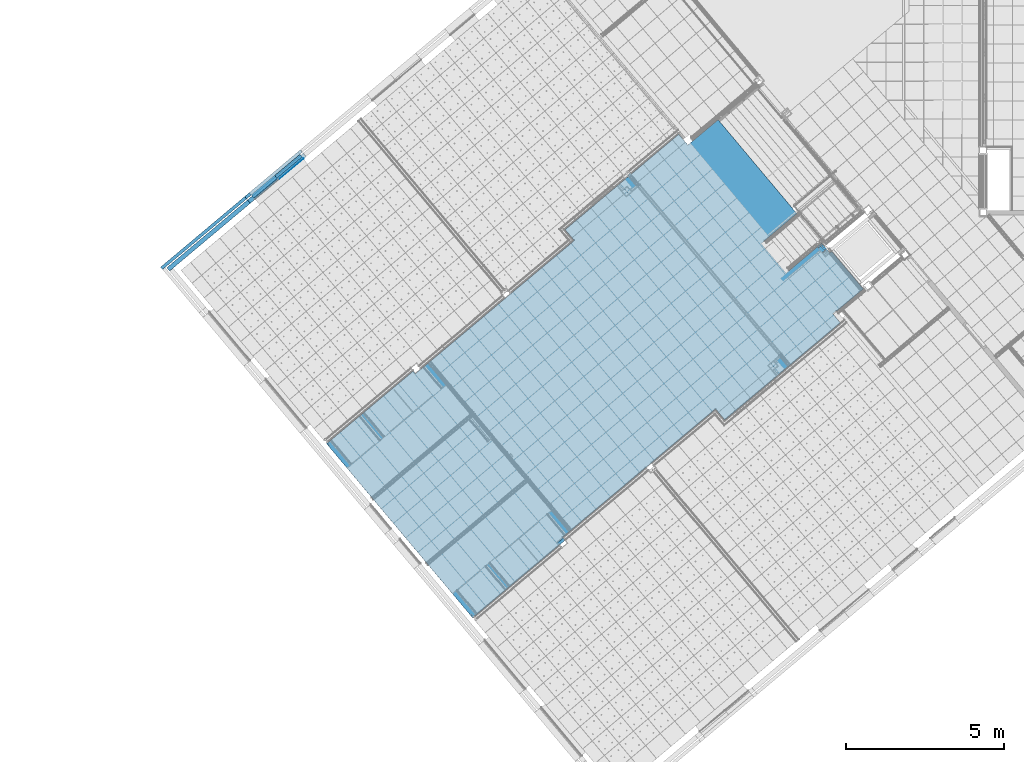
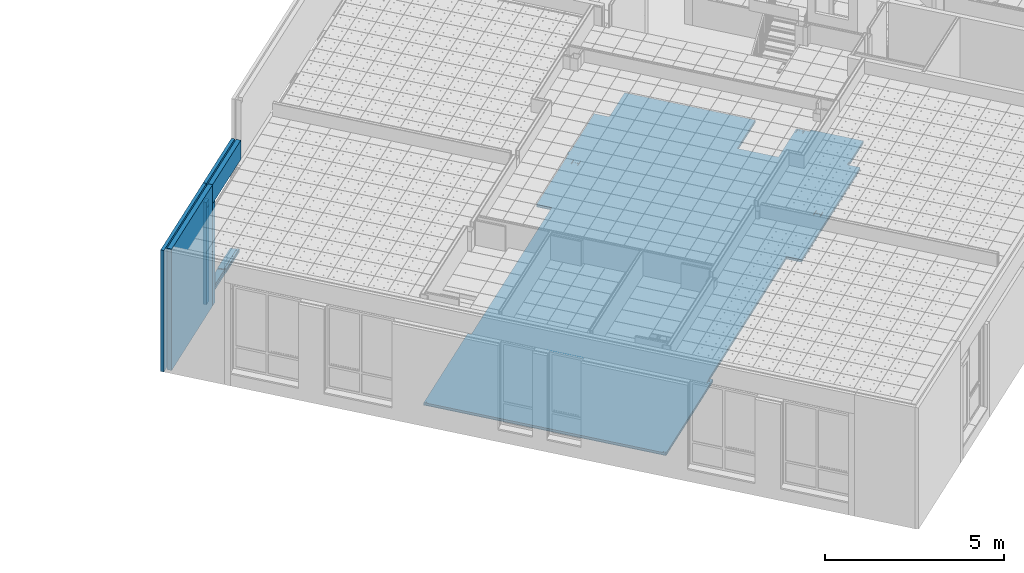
# One storey, part 59 of 338: 12 building element parts, 6 elements without a shape of their own.
"""IFC2X3 building model written with IfcOpenShell, lengths in millimetres."""

import ifcopenshell
import ifcopenshell.guid

model = None  # the IFC model being written
_history = None  # IfcOwnerHistory: only IFC2X3 demands one
_inside = {}  # id of a spatial element -> (the spatial element, [elements in it])
_under = {}  # id of a project, library or spatial element -> (it, [spatial elements below it])
_declared = {}  # id of a project -> (the project, [libraries it declares])
_typed = {}  # id of a type object -> (the type object, [elements of that type])
_made_of = {}  # id of a material, layer set ... -> (it, [elements and type objects made of it])


def new_model(schema):
    """Start an empty IFC model of exactly this schema.

    Asked for "IFC4X3", IfcOpenShell would pick the latest addendum, in which some entities
    have other attributes; the version numbers below select the first issue.
    IFC2X3 requires an IfcOwnerHistory on every rooted entity: one is made here for all.
    """
    global model, _history
    if schema == "IFC4X3":
        model = ifcopenshell.file(schema_version=(4, 3, 0, 0))
    else:
        model = ifcopenshell.file(schema=schema)
    _inside.clear()
    _under.clear()
    _declared.clear()
    _typed.clear()
    _made_of.clear()
    _history = None
    if model.schema == "IFC2X3":
        org = make("IfcOrganization", Name="unknown")
        user = make(
            "IfcPersonAndOrganization",
            ThePerson=make("IfcPerson", FamilyName="unknown"),
            TheOrganization=org,
        )
        app = make(
            "IfcApplication",
            ApplicationDeveloper=org,
            Version="unknown",
            ApplicationFullName="unknown",
            ApplicationIdentifier="unknown",
        )
        _history = make(
            "IfcOwnerHistory",
            OwningUser=user,
            OwningApplication=app,
            ChangeAction="ADDED",
            CreationDate=0,
        )
    return model


def make(cls, **values):
    """One entity of the class cls with the attributes given. An attribute that is None is left unset."""
    return model.create_entity(
        cls, **{name: value for name, value in values.items() if value is not None}
    )


def entity(cls, *values):
    """Any entity or typed value of the class cls, its attributes in the order of the schema. None: left unset."""
    e = model.create_entity(cls)
    for i, value in enumerate(values):
        if value is not None:
            e[i] = value
    return e


def rooted(cls, **values):
    """An entity with a GlobalId (a new one), such as an element, a storey or a relation."""
    return make(cls, GlobalId=ifcopenshell.guid.new(), OwnerHistory=_history, **values)


def si_unit(unit_type, name, prefix=None):
    """IfcSIUnit, for example si_unit("LENGTHUNIT", "METRE", prefix="MILLI")."""
    return make("IfcSIUnit", UnitType=unit_type, Prefix=prefix, Name=name)


def converted_unit(unit_type, name, factor, base, dimensions=None, offset=None):
    """IfcConversionBasedUnit, such as the inch: factor (a typed value) times the base unit."""
    return make(
        "IfcConversionBasedUnit"
        if offset is None
        else "IfcConversionBasedUnitWithOffset",
        ConversionOffset=offset,
        Dimensions=None
        if dimensions is None
        else entity("IfcDimensionalExponents", *dimensions),
        UnitType=unit_type,
        Name=name,
        ConversionFactor=make(
            "IfcMeasureWithUnit", ValueComponent=factor, UnitComponent=base
        ),
    )


def derived_unit(unit_type, elements):
    """IfcDerivedUnit: a product of units, each with its exponent."""
    return make(
        "IfcDerivedUnit",
        Elements=[
            make("IfcDerivedUnitElement", Unit=unit, Exponent=power)
            for unit, power in elements
        ],
        UnitType=unit_type,
    )


def money_unit(currency):
    """IfcMonetaryUnit."""
    return make("IfcMonetaryUnit", Currency=currency)


def assignment(units):
    """IfcUnitAssignment: the units of a project."""
    return None if units is None else make("IfcUnitAssignment", Units=units)


def point(xyz):
    """IfcCartesianPoint."""
    return None if xyz is None else make("IfcCartesianPoint", Coordinates=xyz)


def direction(xyz):
    """IfcDirection."""
    return None if xyz is None else make("IfcDirection", DirectionRatios=xyz)


def frame(location, z_axis=None, x_axis=None):
    """IfcAxis2Placement3D, a coordinate frame: its origin and axes. An axis left out is left unset."""
    return make(
        "IfcAxis2Placement3D",
        Location=point(location),
        Axis=direction(z_axis),
        RefDirection=direction(x_axis),
    )


def origin_with_axes():
    """The frame at (0, 0, 0) with the z axis (0, 0, 1) and the x axis (1, 0, 0) written out."""
    return frame((0.0, 0.0, 0.0), z_axis=(0.0, 0.0, 1.0), x_axis=(1.0, 0.0, 0.0))


def place(relative_to, where):
    """IfcLocalPlacement: puts the frame where relative to a parent placement (None: the world)."""
    return make(
        "IfcLocalPlacement", PlacementRelTo=relative_to, RelativePlacement=where
    )


def context(
    kind, dimensions, precision=None, world=None, true_north=None, identifier=None
):
    """IfcGeometricRepresentationContext, for example the 3D "Model" context."""
    return make(
        "IfcGeometricRepresentationContext",
        ContextIdentifier=identifier,
        ContextType=kind,
        CoordinateSpaceDimension=dimensions,
        Precision=precision,
        WorldCoordinateSystem=world,
        TrueNorth=true_north,
    )


def subcontext(parent, identifier, kind, view, scale=None):
    """IfcGeometricRepresentationSubContext, for example "Body" below "Model"."""
    return make(
        "IfcGeometricRepresentationSubContext",
        ContextIdentifier=identifier,
        ContextType=kind,
        ParentContext=parent,
        TargetScale=scale,
        TargetView=view,
    )


def project(units=None, contexts=None):
    """IfcProject with its units and contexts."""
    return rooted(
        "IfcProject",
        Name="project",
        RepresentationContexts=contexts,
        UnitsInContext=assignment(units),
    )


def spatial(cls, under=None, at=None, **own):
    """A site, building, storey or space (cls), placed at a placement, below another one or the project."""
    s = rooted(cls, ObjectPlacement=at, **own)
    if under is not None:
        _under.setdefault(under.id(), (under, []))[1].append(s)
    return s


def faces_of(points, faces, orient=None, outer=None):
    """IfcFace entities. A face is a list of loops; a loop is a list of indices into points, from 0.

    orient and outer hold one flag for each loop. By default every Orientation is true, the
    first loop of a face is its IfcFaceOuterBound and the others are IfcFaceBound.
    """
    made = []
    for i, loops in enumerate(faces):
        bounds = []
        for j, loop in enumerate(loops):
            is_outer = j == 0 if outer is None else outer[i][j]
            bounds.append(
                make(
                    "IfcFaceOuterBound" if is_outer else "IfcFaceBound",
                    Bound=make("IfcPolyLoop", Polygon=[points[k] for k in loop]),
                    Orientation=True if orient is None else orient[i][j],
                )
            )
        made.append(make("IfcFace", Bounds=bounds))
    return made


def faceted_brep(points, faces, orient=None, outer=None, voids=None):
    """IfcFacetedBrep: a solid bounded by flat faces; with voids (closed shells), ...WithVoids."""
    shared = [point(p) for p in points]
    hull = make("IfcClosedShell", CfsFaces=faces_of(shared, faces, orient, outer))
    if voids is None:
        return make("IfcFacetedBrep", Outer=hull)
    return make(
        "IfcFacetedBrepWithVoids",
        Outer=hull,
        Voids=[
            make(cls, CfsFaces=faces_of(shared, fs, o, b)) for cls, fs, o, b in voids
        ],
    )


def shape(context_of_items, identifier, shape_type, items):
    """IfcShapeRepresentation: the items that make up one representation, for example the "Body"."""
    return make(
        "IfcShapeRepresentation",
        ContextOfItems=context_of_items,
        RepresentationIdentifier=identifier,
        RepresentationType=shape_type,
        Items=items,
    )


def material(Name=None, Category=None):
    """IfcMaterial."""
    return make("IfcMaterial", Name=Name, Category=Category)


def made_of(thing, what):
    """Note that an element or type object is made of a material, layer set ...; save() writes the relation."""
    if what is not None:
        _made_of.setdefault(what.id(), (what, []))[1].append(thing)
    return thing


def type_object(cls, material=None, **own):
    """A type object (cls), such as IfcWallType, which elements share."""
    return made_of(rooted(cls, **own), material)


def element(
    cls,
    number,
    at=None,
    inside=None,
    cuts=None,
    type_object=None,
    material=None,
    context=None,
    identifier="Body",
    shape_type=None,
    held_by="IfcProductDefinitionShape",
    body=None,
    shapes=None,
    **own,
):
    """One element of the class cls, such as IfcWall. Its Tag is "e" and its number.

    at: its placement. inside: the storey or other place that contains it. cuts: it is an
    opening in that element (IfcRelVoidsElement). A single representation is given by context,
    identifier, shape_type and body (its items); several are given by shapes. held_by: the class
    of the entity that holds the representations. save() writes the other relations.
    """
    e = rooted(cls, Tag="e%d" % number, ObjectPlacement=at, **own)
    if body is not None:
        shapes = [shape(context, identifier, shape_type, body)]
    if shapes is not None:
        e.Representation = make(held_by, Representations=shapes)
    if inside is not None:
        _inside.setdefault(inside.id(), (inside, []))[1].append(e)
    if cuts is not None:
        rooted(
            "IfcRelVoidsElement", RelatingBuildingElement=cuts, RelatedOpeningElement=e
        )
    if type_object is not None:
        _typed.setdefault(type_object.id(), (type_object, []))[1].append(e)
    return made_of(e, material)


def aggregate(whole, parts):
    """IfcRelAggregates: a whole, such as a stair, and the parts it consists of."""
    return rooted("IfcRelAggregates", RelatingObject=whole, RelatedObjects=parts)


def save(model, path):
    """Write the relations noted so far, then the file.

    IfcRelAggregates (storeys below a building ...), IfcRelContainedInSpatialStructure (elements
    in a storey), IfcRelDefinesByType, IfcRelAssociatesMaterial and IfcRelDeclares: one each for
    every whole, place, type object, material and project.
    """
    for whole, parts in _under.values():
        aggregate(whole, parts)
    for where, things in _inside.values():
        rooted(
            "IfcRelContainedInSpatialStructure",
            RelatedElements=things,
            RelatingStructure=where,
        )
    for kind, things in _typed.values():
        rooted("IfcRelDefinesByType", RelatedObjects=things, RelatingType=kind)
    for what, things in _made_of.values():
        rooted("IfcRelAssociatesMaterial", RelatedObjects=things, RelatingMaterial=what)
    for by, libraries in _declared.values():
        rooted("IfcRelDeclares", RelatingContext=by, RelatedDefinitions=libraries)
    model.write(path)


model = new_model("IFC2X3")

# Units and contexts
model_context = context("Model", 3, precision=0.01, world=origin_with_axes(), true_north=direction((0.0, 1.0)))
plan_context = context("Plan", 3, precision=0.01, world=origin_with_axes(), true_north=direction((0.0, 1.0)))
body_context = subcontext(model_context, "Body", "Model", "MODEL_VIEW")
ifc_project = project(units=[si_unit("LENGTHUNIT", "METRE", prefix="MILLI"), si_unit("AREAUNIT", "SQUARE_METRE"), si_unit("VOLUMEUNIT", "CUBIC_METRE"), converted_unit("PLANEANGLEUNIT", "DEGREE", entity("IfcPlaneAngleMeasure", 0.0174532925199), si_unit("PLANEANGLEUNIT", "RADIAN"), dimensions=[0, 0, 0, 0, 0, 0, 0]), money_unit("EUR"), converted_unit("TIMEUNIT", "Year", entity("IfcTimeMeasure", 31556926.0), si_unit("TIMEUNIT", "SECOND"), dimensions=[0, 0, 1, 0, 0, 0, 0]), si_unit("MASSUNIT", "GRAM", prefix="KILO"), si_unit("THERMODYNAMICTEMPERATUREUNIT", "DEGREE_CELSIUS"), si_unit("LUMINOUSINTENSITYUNIT", "LUMEN"), si_unit("ENERGYUNIT", "JOULE", prefix="MEGA"), derived_unit("THERMALCONDUCTANCEUNIT", [(si_unit("POWERUNIT", "WATT"), 1), (si_unit("LENGTHUNIT", "METRE"), -1), (si_unit("THERMODYNAMICTEMPERATUREUNIT", "KELVIN"), -1)]), derived_unit("SPECIFICHEATCAPACITYUNIT", [(si_unit("ENERGYUNIT", "JOULE"), 1), (si_unit("MASSUNIT", "GRAM", prefix="KILO"), -1), (si_unit("THERMODYNAMICTEMPERATUREUNIT", "KELVIN"), -1)]), derived_unit("MASSDENSITYUNIT", [(si_unit("MASSUNIT", "GRAM", prefix="KILO"), 1), (si_unit("VOLUMEUNIT", "CUBIC_METRE"), -1)])], contexts=[model_context, plan_context])

# Site, building, storey
site_placement = place(None, origin_with_axes())
site = spatial("IfcSite", under=ifc_project, at=site_placement, Name="Fortuinstraat Woensdrecht", CompositionType="ELEMENT")
building_placement = place(site_placement, origin_with_axes())
building = spatial("IfcBuilding", under=site, at=building_placement, Name="IKC Fortuna", CompositionType="ELEMENT")
storey_placement = place(building_placement, origin_with_axes())
storey = spatial("IfcBuildingStorey", under=building, at=storey_placement, Name="00 begane grond", CompositionType="ELEMENT", Elevation=0.0)

# Covering, building element parts
covering_type_1 = type_object("IfcCoveringType", Name="43 Vloerafwerking 90", PredefinedType="FLOORING")
covering_1_placement = place(storey_placement, frame((12683.3031304, 875.91387293, 1450.0), z_axis=(0.0, 0.0, 1.0), x_axis=(1.0, 0.0, 0.0)))
covering_1 = element("IfcCovering", 1, at=covering_1_placement, inside=storey, type_object=covering_type_1, Name="43_Vloerafwerking_Vloerafwerking", PredefinedType="FLOORING")
ifc_material_1 = material(Name="Cement")
building_element_part_1_placement = place(covering_1_placement, origin_with_axes())
building_element_part_1 = element("IfcBuildingElementPart", 2, at=building_element_part_1_placement, material=ifc_material_1, Name="Cement", context=body_context, shape_type="Brep", body=[
    faceted_brep([(7941.17625613, -302.509289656, 0.0), (7949.6207659, -298.571550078, 0.0), (7986.51515226, -267.613484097, 0.0), (7865.67108805, -123.597123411, 0.0), (7828.77669528, -154.555194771, 0.0), (7823.43240508, -162.187632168, 0.0), (7822.6203327, -171.469661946, 0.0), (7826.55807228, -179.914171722, 0.0), (7924.26178895, -296.352927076, 0.0), (7931.89422635, -301.697217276, 0.0), (7941.17625613, -302.509289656, -70.0), (7949.6207659, -298.571550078, -70.0), (7986.51515226, -267.613484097, -70.0), (7865.67108805, -123.597123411, -70.0), (7828.77669528, -154.555194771, -70.0), (7823.43240508, -162.187632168, -70.0), (7822.6203327, -171.469661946, -70.0), (7826.55807228, -179.914171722, -70.0), (7924.26178895, -296.352927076, -70.0), (7931.89422635, -301.697217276, -70.0)], [[[0, 1, 2, 3, 4, 5, 6, 7, 8, 9]], [[1, 0, 10, 11]], [[12, 2, 1, 11]], [[13, 3, 2, 12]], [[4, 3, 13, 14]], [[5, 4, 14, 15]], [[6, 5, 15, 16]], [[7, 6, 16, 17]], [[8, 7, 17, 18]], [[9, 8, 18, 19]], [[0, 9, 19, 10]], [[14, 13, 12, 11, 10, 19, 18, 17, 16, 15]]]),
    faceted_brep([(-3248.59989988, -11827.6148319, 0.0), (-3240.17341101, -11820.5441682, 0.0), (-3169.47244437, -11904.8022992, 0.0), (-374.850618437, -9559.92775937, 0.0), (-423.548504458, -9501.89187876, 0.0), (-431.180941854, -9496.54758856, 0.0), (-440.462971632, -9495.73551618, 0.0), (-448.907481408, -9499.67325575, 0.0), (-516.702414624, -9556.55995921, 0.0), (-523.773078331, -9548.13347034, 0.0), (-355.243300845, -9406.72019621, 0.0), (-348.172637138, -9415.14668508, 0.0), (-415.967570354, -9472.03338854, 0.0), (-421.311860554, -9479.66582593, 0.0), (-422.123932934, -9488.94785571, 0.0), (-418.186193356, -9497.39236549, 0.0), (-369.488220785, -9555.42834925, 0.0), (-278.5919549, -9479.16030552, 0.0), (-354.162659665, -9389.09512832, 0.0), (4476.96058874, -5335.43385216, 0.0), (4766.18213498, -5680.08309453, 0.0), (8428.48562877, -2606.76295903, 0.0), (8182.74338855, -2313.89876141, 0.0), (8297.65005502, -2217.48061995, 0.0), (8313.71970855, -2236.63168727, 0.0), (9152.53837938, -1532.77933201, 0.0), (8153.0058158, -341.582912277, 0.0), (8091.72793434, -393.001206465, 0.0), (7993.58581559, -276.039973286, 0.0), (7855.95658534, -391.524609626, 0.0), (7848.88592163, -383.098120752, 0.0), (7916.68085485, -326.211417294, 0.0), (7922.02514505, -318.578979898, 0.0), (7922.83721743, -309.29695012, 0.0), (7918.89947785, -300.852440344, 0.0), (7821.19576118, -184.41368499, 0.0), (7813.56332378, -179.06939479, 0.0), (7804.28129401, -178.25732241, 0.0), (7795.83678423, -182.195061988, 0.0), (7728.04185101, -239.081765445, 0.0), (7720.97118731, -230.655276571, 0.0), (7858.60042471, -115.170634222, 0.0), (7832.69933754, -84.3029177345, 0.0), (6706.60831836, -1029.20539117, 0.0), (5924.34216821, -96.9368120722, 0.0), (7050.43318739, 847.96566136, 0.0), (4554.78930317, 3822.15849511, 0.0), (3787.7930916, 3177.1960877, 0.0), (3787.84032182, 3177.13980092, 0.0), (3734.33420819, 3132.24284071, 0.0), (3600.27787026, 3019.51568882, 0.0), (3310.18014751, 3365.24069183, 0.0), (1802.69620276, 2100.31146978, 0.0), (1775.49444779, 2132.729259, 0.0), (1698.89000103, 2068.45049597, 0.0), (1726.091756, 2036.03270676, 0.0), (-289.370860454, 344.858768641, 0.0), (0.0, 0.0, 0.0), (-5019.5090442, -4211.86827778, 0.0), (-5090.21568215, -4127.60338978, 0.0), (-7792.60014924, -6395.17324792, 0.0), (-7726.83092662, -6473.55395526, 0.0), (-7735.2574155, -6480.62461897, 0.0), (-7792.14411895, -6412.82968575, 0.0), (-7799.77655635, -6407.48539555, 0.0), (-7806.56536089, -6406.89145212, 0.0), (-7829.97109182, -6426.53119272, 0.0), (-6300.57448184, -8249.19509633, 0.0), (-5666.78589869, -9004.51491723, 0.0), (-5374.96032389, -9352.29909442, 0.0), (-4741.17174074, -10107.6189153, 0.0), (-3209.08746165, -11933.4858359, 0.0), (-3193.93181943, -11920.7687421, 0.0), (-3188.58752923, -11913.1363047, 0.0), (-3187.77545685, -11903.8542749, 0.0), (-3191.71319643, -11895.4097652, 0.0), (1742.27299243, 1491.38208058, 0.0), (1810.06792565, 1548.26878404, 0.0), (1817.13858936, 1539.84229516, 0.0), (1648.60881187, 1398.42902103, 0.0), (1641.53814816, 1406.85550991, 0.0), (1709.33308138, 1463.74221336, 0.0), (1714.67737158, 1471.37465076, 0.0), (1715.48944396, 1480.65668054, 0.0), (1711.55170438, 1489.10119031, 0.0), (1613.84798771, 1605.53994567, 0.0), (1606.21555031, 1610.88423587, 0.0), (1596.93352053, 1611.69630825, 0.0), (1588.48901076, 1607.75856867, 0.0), (1520.69407754, 1550.87186521, 0.0), (1513.62341383, 1559.29835409, 0.0), (1682.15319132, 1700.71162822, 0.0), (1689.22385503, 1692.28513934, 0.0), (1621.42892181, 1635.39843589, 0.0), (1616.08463161, 1627.76599849, 0.0), (1615.27255923, 1618.48396871, 0.0), (1619.21029881, 1610.03945894, 0.0), (1716.91401548, 1493.60070358, 0.0), (1724.54645288, 1488.25641338, 0.0), (1733.82848266, 1487.444341, 0.0), (6369.29370052, -4023.9397291, 0.0), (6437.08863374, -3967.05302564, 0.0), (6444.15929745, -3975.47951451, 0.0), (6275.62951996, -4116.89278864, 0.0), (6268.55885625, -4108.46629977, 0.0), (6336.35378947, -4051.57959631, 0.0), (6341.69807967, -4043.94715892, 0.0), (6342.51015205, -4034.66512914, 0.0), (6338.57241247, -4026.22061936, 0.0), (6240.8686958, -3909.78186401, 0.0), (6233.2362584, -3904.43757381, 0.0), (6223.95422863, -3903.62550143, 0.0), (6215.50971885, -3907.56324101, 0.0), (6147.71478563, -3964.44994446, 0.0), (6140.64412193, -3956.02345559, 0.0), (6309.17389941, -3814.61018146, 0.0), (6316.24456312, -3823.03667033, 0.0), (6248.4496299, -3879.92337379, 0.0), (6243.1053397, -3887.55581119, 0.0), (6242.29326732, -3896.83784096, 0.0), (6246.2310069, -3905.28235074, 0.0), (6343.93472357, -4021.72110609, 0.0), (6351.56716097, -4027.06539629, 0.0), (6360.84919075, -4027.87746867, 0.0), (-3248.59989988, -11827.6148319, -50.0), (-3240.17341101, -11820.5441682, -50.0), (-3169.47244437, -11904.8022992, -50.0), (-3206.84397861, -11936.1595148, -50.0), (-3206.84397861, -11936.1595148, -70.0), (-278.5919549, -9479.16030552, -70.0), (-369.488220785, -9555.42834925, -50.0), (-374.850618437, -9559.92775937, -50.0), (-423.548504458, -9501.89187876, -50.0), (-431.180941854, -9496.54758856, -50.0), (-440.462971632, -9495.73551618, -50.0), (-448.907481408, -9499.67325575, -50.0), (-516.702414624, -9556.55995921, -50.0), (-523.773078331, -9548.13347034, -50.0), (-355.243300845, -9406.72019621, -50.0), (-348.172637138, -9415.14668508, -50.0), (-415.967570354, -9472.03338854, -50.0), (-421.311860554, -9479.66582593, -50.0), (-422.123932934, -9488.94785571, -50.0), (-418.186193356, -9497.39236549, -50.0), (-354.162659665, -9389.09512832, -70.0), (4476.96058874, -5335.43385216, -70.0), (4766.18213498, -5680.08309453, -70.0), (8428.48562877, -2606.76295903, -70.0), (8182.74338855, -2313.89876141, -70.0), (8297.65005502, -2217.48061995, -70.0), (8313.71970855, -2236.63168727, -70.0), (9152.53837938, -1532.77933201, -70.0), (8153.0058158, -341.582912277, -70.0), (8091.72793434, -393.001206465, -70.0), (7993.58581559, -276.039973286, -70.0), (7855.95658534, -391.524609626, -70.0), (7848.88592163, -383.098120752, -70.0), (7916.68085485, -326.211417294, -70.0), (7922.02514505, -318.578979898, -70.0), (7922.83721743, -309.29695012, -70.0), (7918.89947785, -300.852440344, -70.0), (7821.19576118, -184.41368499, -70.0), (7813.56332378, -179.06939479, -70.0), (7804.28129401, -178.25732241, -70.0), (7795.83678423, -182.195061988, -70.0), (7728.04185101, -239.081765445, -70.0), (7720.97118731, -230.655276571, -70.0), (7858.60042471, -115.170634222, -70.0), (7832.69933754, -84.3029177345, -70.0), (6706.60831836, -1029.20539117, -70.0), (5924.34216821, -96.9368120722, -70.0), (7050.43318739, 847.96566136, -70.0), (4554.78930317, 3822.15849511, -70.0), (3787.7930916, 3177.1960877, -50.0), (3600.27787026, 3019.51568882, -70.0), (3734.33420819, 3132.24284071, -50.0), (3787.84032182, 3177.13980092, -50.0), (3310.18014751, 3365.24069183, -70.0), (1802.69620276, 2100.31146978, -70.0), (1775.49444779, 2132.729259, -70.0), (1698.89000103, 2068.45049597, -70.0), (1726.091756, 2036.03270676, -70.0), (-289.370860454, 344.858768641, -70.0), (0.0, 0.0, -70.0), (-5019.5090442, -4211.86827778, -70.0), (-5090.21568215, -4127.60338978, -70.0), (-7792.60014924, -6395.17324792, -50.0), (-7829.97109182, -6426.53119272, -70.0), (-7806.56536089, -6406.89145212, -50.0), (-7726.83092662, -6473.55395526, -50.0), (-7735.2574155, -6480.62461897, -50.0), (-7792.14411895, -6412.82968575, -50.0), (-7799.77655635, -6407.48539555, -50.0), (-6300.57448184, -8249.19509633, -70.0), (-5666.78589869, -9004.51491724, -70.0), (-5374.96032389, -9352.29909442, -70.0), (-4741.17174074, -10107.6189153, -70.0), (-3209.08745384, -11933.4858293, -50.0), (-3193.93181943, -11920.7687421, -50.0), (-3188.58752923, -11913.1363047, -50.0), (-3187.77545685, -11903.8542749, -50.0), (-3191.71319643, -11895.4097652, -50.0), (1742.27299243, 1491.38208058, -50.0), (1810.06792565, 1548.26878404, -50.0), (1817.13858936, 1539.84229516, -50.0), (1648.60881187, 1398.42902103, -50.0), (1641.53814816, 1406.85550991, -50.0), (1709.33308138, 1463.74221336, -50.0), (1714.67737158, 1471.37465076, -50.0), (1715.48944396, 1480.65668054, -50.0), (1711.55170438, 1489.10119031, -50.0), (1613.84798771, 1605.53994567, -50.0), (1606.21555031, 1610.88423587, -50.0), (1596.93352053, 1611.69630825, -50.0), (1588.48901076, 1607.75856867, -50.0), (1520.69407754, 1550.87186521, -50.0), (1513.62341383, 1559.29835409, -50.0), (1682.15319132, 1700.71162822, -50.0), (1689.22385503, 1692.28513934, -50.0), (1621.42892181, 1635.39843589, -50.0), (1616.08463161, 1627.76599849, -50.0), (1615.27255923, 1618.48396871, -50.0), (1619.21029881, 1610.03945894, -50.0), (1716.91401548, 1493.60070358, -50.0), (1724.54645288, 1488.25641338, -50.0), (1733.82848266, 1487.444341, -50.0), (6369.29370052, -4023.9397291, -50.0), (6437.08863374, -3967.05302564, -50.0), (6444.15929745, -3975.47951451, -50.0), (6275.62951996, -4116.89278864, -50.0), (6268.55885625, -4108.46629977, -50.0), (6336.35378947, -4051.57959631, -50.0), (6341.69807967, -4043.94715892, -50.0), (6342.51015205, -4034.66512914, -50.0), (6338.57241247, -4026.22061936, -50.0), (6240.8686958, -3909.78186401, -50.0), (6233.2362584, -3904.43757381, -50.0), (6223.95422863, -3903.62550143, -50.0), (6215.50971885, -3907.56324101, -50.0), (6147.71478563, -3964.44994446, -50.0), (6140.64412193, -3956.02345559, -50.0), (6309.17389941, -3814.61018146, -50.0), (6316.24456312, -3823.03667033, -50.0), (6248.4496299, -3879.92337379, -50.0), (6243.1053397, -3887.55581119, -50.0), (6242.29326732, -3896.83784096, -50.0), (6246.2310069, -3905.28235074, -50.0), (6343.93472357, -4021.72110609, -50.0), (6351.56716097, -4027.06539629, -50.0), (6360.84919075, -4027.87746867, -50.0)], [[[0, 1, 2, 3, 4, 5, 6, 7, 8, 9, 10, 11, 12, 13, 14, 15, 16, 17, 18, 19, 20, 21, 22, 23, 24, 25, 26, 27, 28, 29, 30, 31, 32, 33, 34, 35, 36, 37, 38, 39, 40, 41, 42, 43, 44, 45, 46, 47, 48, 49, 50, 51, 52, 53, 54, 55, 56, 57, 58, 59, 60, 61, 62, 63, 64, 65, 66, 67, 68, 69, 70, 71, 72, 73, 74, 75], [76, 77, 78, 79, 80, 81, 82, 83, 84, 85, 86, 87, 88, 89, 90, 91, 92, 93, 94, 95, 96, 97, 98, 99], [100, 101, 102, 103, 104, 105, 106, 107, 108, 109, 110, 111, 112, 113, 114, 115, 116, 117, 118, 119, 120, 121, 122, 123]], [[1, 0, 124, 125]], [[126, 2, 1, 125]], [[126, 127, 128, 129, 17, 16, 130, 131, 3, 2]], [[4, 3, 131, 132]], [[5, 4, 132, 133]], [[6, 5, 133, 134]], [[7, 6, 134, 135]], [[8, 7, 135, 136]], [[9, 8, 136, 137]], [[10, 9, 137, 138]], [[11, 10, 138, 139]], [[12, 11, 139, 140]], [[13, 12, 140, 141]], [[14, 13, 141, 142]], [[15, 14, 142, 143]], [[130, 16, 15, 143]], [[17, 129, 144, 18]], [[18, 144, 145, 19]], [[19, 145, 146, 20]], [[146, 147, 21, 20]], [[22, 21, 147, 148]], [[149, 23, 22, 148]], [[149, 150, 24, 23]], [[25, 24, 150, 151]], [[25, 151, 152, 26]], [[26, 152, 153, 27]], [[154, 28, 27, 153]], [[29, 28, 154, 155]], [[30, 29, 155, 156]], [[31, 30, 156, 157]], [[32, 31, 157, 158]], [[33, 32, 158, 159]], [[34, 33, 159, 160]], [[35, 34, 160, 161]], [[36, 35, 161, 162]], [[37, 36, 162, 163]], [[38, 37, 163, 164]], [[39, 38, 164, 165]], [[40, 39, 165, 166]], [[167, 41, 40, 166]], [[41, 167, 168, 42]], [[42, 168, 169, 43]], [[43, 169, 170, 44]], [[44, 170, 171, 45]], [[45, 171, 172, 46]], [[173, 47, 46, 172, 174, 50, 49, 175]], [[48, 47, 173, 176]], [[49, 48, 176, 175]], [[50, 174, 177, 51]], [[51, 177, 178, 52]], [[52, 178, 179, 53]], [[53, 179, 180, 54]], [[54, 180, 181, 55]], [[55, 181, 182, 56]], [[56, 182, 183, 57]], [[57, 183, 184, 58]], [[58, 184, 185, 59]], [[186, 60, 59, 185, 187, 66, 65, 188]], [[61, 60, 186, 189]], [[62, 61, 189, 190]], [[63, 62, 190, 191]], [[64, 63, 191, 192]], [[65, 64, 192, 188]], [[187, 193, 67, 66]], [[193, 194, 68, 67]], [[69, 68, 194, 195]], [[195, 196, 70, 69]], [[197, 71, 70, 196, 128, 127]], [[72, 71, 197, 198]], [[73, 72, 198, 199]], [[74, 73, 199, 200]], [[75, 74, 200, 201]], [[0, 75, 201, 124]], [[77, 76, 202, 203]], [[78, 77, 203, 204]], [[79, 78, 204, 205]], [[80, 79, 205, 206]], [[81, 80, 206, 207]], [[82, 81, 207, 208]], [[83, 82, 208, 209]], [[84, 83, 209, 210]], [[85, 84, 210, 211]], [[86, 85, 211, 212]], [[87, 86, 212, 213]], [[88, 87, 213, 214]], [[89, 88, 214, 215]], [[90, 89, 215, 216]], [[91, 90, 216, 217]], [[92, 91, 217, 218]], [[93, 92, 218, 219]], [[94, 93, 219, 220]], [[95, 94, 220, 221]], [[96, 95, 221, 222]], [[97, 96, 222, 223]], [[98, 97, 223, 224]], [[99, 98, 224, 225]], [[76, 99, 225, 202]], [[101, 100, 226, 227]], [[102, 101, 227, 228]], [[103, 102, 228, 229]], [[104, 103, 229, 230]], [[105, 104, 230, 231]], [[106, 105, 231, 232]], [[107, 106, 232, 233]], [[108, 107, 233, 234]], [[109, 108, 234, 235]], [[110, 109, 235, 236]], [[111, 110, 236, 237]], [[112, 111, 237, 238]], [[113, 112, 238, 239]], [[114, 113, 239, 240]], [[115, 114, 240, 241]], [[116, 115, 241, 242]], [[117, 116, 242, 243]], [[118, 117, 243, 244]], [[119, 118, 244, 245]], [[120, 119, 245, 246]], [[121, 120, 246, 247]], [[122, 121, 247, 248]], [[123, 122, 248, 249]], [[100, 123, 249, 226]], [[127, 126, 125, 124, 201, 200, 199, 198, 197]], [[155, 154, 153, 152, 151, 150, 149, 148, 147, 146, 145, 144, 129, 128, 196, 195, 194, 193, 187, 185, 184, 183, 182, 181, 180, 179, 178, 177, 174, 172, 171, 170, 169, 168, 167, 166, 165, 164, 163, 162, 161, 160, 159, 158, 157, 156]], [[131, 130, 143, 142, 141, 140, 139, 138, 137, 136, 135, 134, 133, 132]], [[173, 175, 176]], [[186, 188, 192, 191, 190, 189]], [[204, 203, 202, 225, 224, 223, 222, 221, 220, 219, 218, 217, 216, 215, 214, 213, 212, 211, 210, 209, 208, 207, 206, 205]], [[228, 227, 226, 249, 248, 247, 246, 245, 244, 243, 242, 241, 240, 239, 238, 237, 236, 235, 234, 233, 232, 231, 230, 229]]]),
])
ifc_material_2 = material(Name="Isolatie - XPS zwevende dekvloer")
building_element_part_2_placement = place(covering_1_placement, origin_with_axes())
building_element_part_2 = element("IfcBuildingElementPart", 3, at=building_element_part_2_placement, material=ifc_material_2, Name="Isolatie - XPS zwevende dekvloer", context=body_context, shape_type="Brep", body=[
    faceted_brep([(7941.17625613, -302.509289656, -70.0), (7949.6207659, -298.571550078, -70.0), (7986.51515226, -267.613484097, -70.0), (7865.67108805, -123.597123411, -70.0), (7828.77669528, -154.555194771, -70.0), (7823.43240508, -162.187632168, -70.0), (7822.6203327, -171.469661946, -70.0), (7826.55807228, -179.914171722, -70.0), (7924.26178895, -296.352927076, -70.0), (7931.89422635, -301.697217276, -70.0), (7941.17625613, -302.509289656, -90.0), (7949.6207659, -298.571550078, -90.0), (7986.51515226, -267.613484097, -90.0), (7865.67108805, -123.597123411, -90.0), (7828.77669528, -154.555194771, -90.0), (7823.43240508, -162.187632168, -90.0), (7822.6203327, -171.469661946, -90.0), (7826.55807228, -179.914171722, -90.0), (7924.26178895, -296.352927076, -90.0), (7931.89422635, -301.697217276, -90.0)], [[[0, 1, 2, 3, 4, 5, 6, 7, 8, 9]], [[1, 0, 10, 11]], [[12, 2, 1, 11]], [[13, 3, 2, 12]], [[4, 3, 13, 14]], [[5, 4, 14, 15]], [[6, 5, 15, 16]], [[7, 6, 16, 17]], [[8, 7, 17, 18]], [[9, 8, 18, 19]], [[0, 9, 19, 10]], [[14, 13, 12, 11, 10, 19, 18, 17, 16, 15]]]),
    faceted_brep([(7993.58581559, -276.039973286, -90.0), (7993.58581559, -276.039973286, -70.0), (8091.72793434, -393.001206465, -70.0), (8091.72793434, -393.001206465, -90.0), (7855.95658534, -391.524609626, -70.0), (7855.95658534, -391.524609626, -90.0), (7720.97118731, -230.655276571, -70.0), (7858.60042471, -115.170634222, -70.0), (7832.69933754, -84.3029177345, -70.0), (6706.60831836, -1029.20539117, -70.0), (5924.34216821, -96.9368120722, -70.0), (7050.43318739, 847.96566136, -70.0), (4554.78930317, 3822.15849511, -70.0), (3600.27787026, 3019.51568882, -70.0), (3310.18014751, 3365.24069183, -70.0), (1802.69620276, 2100.31146978, -70.0), (1775.49444779, 2132.729259, -70.0), (1698.89000103, 2068.45049597, -70.0), (1726.091756, 2036.03270676, -70.0), (-289.370860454, 344.858768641, -70.0), (0.0, 0.0, -70.0), (-5019.5090442, -4211.86827778, -70.0), (-5090.21568215, -4127.60338978, -70.0), (-7829.97109182, -6426.53119272, -70.0), (-6300.57448184, -8249.19509633, -70.0), (-5666.78589869, -9004.51491724, -70.0), (-5374.96032389, -9352.29909442, -70.0), (-4741.17174074, -10107.6189153, -70.0), (-3206.84397861, -11936.1595148, -70.0), (-278.5919549, -9479.16030552, -70.0), (-354.162659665, -9389.09512832, -70.0), (4476.96058874, -5335.43385216, -70.0), (4766.18213498, -5680.08309453, -70.0), (8428.48562877, -2606.76295903, -70.0), (8182.74338855, -2313.89876141, -70.0), (8297.65005502, -2217.48061995, -70.0), (8313.71970855, -2236.63168727, -70.0), (9152.53837938, -1532.77933201, -70.0), (8153.0058158, -341.582912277, -70.0), (7848.88592163, -383.098120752, -70.0), (7916.68085485, -326.211417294, -70.0), (7922.02514505, -318.578979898, -70.0), (7922.83721743, -309.29695012, -70.0), (7918.89947785, -300.852440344, -70.0), (7821.19576118, -184.41368499, -70.0), (7813.56332378, -179.06939479, -70.0), (7804.28129401, -178.25732241, -70.0), (7795.83678423, -182.195061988, -70.0), (7728.04185101, -239.081765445, -70.0), (8153.0058158, -341.582912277, -90.0), (9152.53837938, -1532.77933201, -90.0), (8313.71970855, -2236.63168727, -90.0), (8297.65005502, -2217.48061995, -90.0), (8182.74338855, -2313.89876141, -90.0), (8428.48562877, -2606.76295903, -90.0), (4766.18213498, -5680.08309453, -90.0), (4476.96058874, -5335.43385216, -90.0), (-354.162659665, -9389.09512832, -90.0), (-278.5919549, -9479.16030552, -90.0), (-3206.84397861, -11936.1595148, -90.0), (-4741.17174074, -10107.6189153, -90.0), (-5374.96032389, -9352.29909442, -90.0), (-5666.78589869, -9004.51491724, -90.0), (-6300.57448184, -8249.19509633, -90.0), (-7829.97109182, -6426.53119272, -90.0), (-5090.21568215, -4127.60338978, -90.0), (-5019.5090442, -4211.86827778, -90.0), (0.0, 0.0, -90.0), (-289.370860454, 344.858768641, -90.0), (1726.091756, 2036.03270676, -90.0), (1698.89000103, 2068.45049597, -90.0), (1775.49444779, 2132.729259, -90.0), (1802.69620276, 2100.31146978, -90.0), (3310.18014751, 3365.24069183, -90.0), (3600.27787026, 3019.51568882, -90.0), (4554.78930317, 3822.15849511, -90.0), (7050.43318739, 847.96566136, -90.0), (5924.34216821, -96.9368120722, -90.0), (6706.60831836, -1029.20539117, -90.0), (7832.69933754, -84.3029177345, -90.0), (7858.60042471, -115.170634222, -90.0), (7720.97118731, -230.655276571, -90.0), (7728.04185101, -239.081765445, -90.0), (7795.83678423, -182.195061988, -90.0), (7804.28129401, -178.25732241, -90.0), (7813.56332378, -179.06939479, -90.0), (7821.19576118, -184.41368499, -90.0), (7918.89947785, -300.852440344, -90.0), (7922.83721743, -309.29695012, -90.0), (7922.02514505, -318.578979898, -90.0), (7916.68085485, -326.211417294, -90.0), (7848.88592163, -383.098120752, -90.0)], [[[0, 1, 2, 3]], [[4, 1, 0, 5]], [[6, 7, 8, 9, 10, 11, 12, 13, 14, 15, 16, 17, 18, 19, 20, 21, 22, 23, 24, 25, 26, 27, 28, 29, 30, 31, 32, 33, 34, 35, 36, 37, 38, 2, 1, 4, 39, 40, 41, 42, 43, 44, 45, 46, 47, 48]], [[3, 2, 38, 49]], [[5, 0, 3, 49, 50, 51, 52, 53, 54, 55, 56, 57, 58, 59, 60, 61, 62, 63, 64, 65, 66, 67, 68, 69, 70, 71, 72, 73, 74, 75, 76, 77, 78, 79, 80, 81, 82, 83, 84, 85, 86, 87, 88, 89, 90, 91]], [[39, 4, 5, 91]], [[80, 7, 6, 81]], [[7, 80, 79, 8]], [[78, 9, 8, 79]], [[77, 10, 9, 78]], [[76, 11, 10, 77]], [[75, 12, 11, 76]], [[74, 13, 12, 75]], [[73, 14, 13, 74]], [[72, 15, 14, 73]], [[71, 16, 15, 72]], [[70, 17, 16, 71]], [[69, 18, 17, 70]], [[68, 19, 18, 69]], [[67, 20, 19, 68]], [[66, 21, 20, 67]], [[65, 22, 21, 66]], [[64, 23, 22, 65]], [[23, 64, 63, 24]], [[24, 63, 62, 25]], [[61, 26, 25, 62]], [[26, 61, 60, 27]], [[59, 28, 27, 60]], [[58, 29, 28, 59]], [[57, 30, 29, 58]], [[56, 31, 30, 57]], [[55, 32, 31, 56]], [[32, 55, 54, 33]], [[53, 34, 33, 54]], [[53, 52, 35, 34]], [[35, 52, 51, 36]], [[50, 37, 36, 51]], [[49, 38, 37, 50]], [[40, 39, 91, 90]], [[41, 40, 90, 89]], [[42, 41, 89, 88]], [[43, 42, 88, 87]], [[44, 43, 87, 86]], [[45, 44, 86, 85]], [[46, 45, 85, 84]], [[47, 46, 84, 83]], [[48, 47, 83, 82]], [[6, 48, 82, 81]]]),
])
aggregate(covering_1, [building_element_part_1, building_element_part_2])

covering_type_2 = type_object("IfcCoveringType", Name="41 dorpel 1450 280 x 88", PredefinedType="NOTDEFINED")
covering_2_placement = place(storey_placement, frame((2499.53138336, 2280.11297323, 1450.01141591), z_axis=(0.0, 0.0, 1.0), x_axis=(0.766044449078, 0.642787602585, 0.0)))
covering_2 = element("IfcCovering", 4, at=covering_2_placement, inside=storey, type_object=covering_type_2, Name="41_Afwerking_Dorpel", PredefinedType="NOTDEFINED")
ifc_material_3 = material(Name="Steen - Kunststeen")
building_element_part_3_placement = place(covering_2_placement, origin_with_axes())
building_element_part_3 = element("IfcBuildingElementPart", 5, at=building_element_part_3_placement, material=ifc_material_3, Name="Steen - Kunststeen", context=body_context, shape_type="Brep", body=[
    faceted_brep([(966.999997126, 140.0, -39.7722078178), (966.999997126, 140.0, -85.0), (0.0, 140.0, -85.0), (0.0, 140.0, -39.7722078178), (966.999997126, -82.0, -19.5865456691), (966.999997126, -82.0, 2.5), (966.999997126, -92.0, 2.5), (966.999997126, -92.0, -85.0), (0.0, -92.0, -85.0), (0.0, -92.0, 2.5), (0.0, -82.0, 2.5), (0.0, -82.0, -19.5865456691)], [[[0, 1, 2, 3]], [[0, 4, 5, 6, 7, 1]], [[1, 7, 8, 2]], [[3, 2, 8, 9, 10, 11]], [[4, 0, 3, 11]], [[5, 4, 11, 10]], [[6, 5, 10, 9]], [[7, 6, 9, 8]]]),
])
ifc_material_4 = material(Name="Hout AFW")
building_element_part_4_placement = place(covering_2_placement, origin_with_axes())
building_element_part_4 = element("IfcBuildingElementPart", 6, at=building_element_part_4_placement, material=ifc_material_4, Name="Hout AFW", context=body_context, shape_type="Brep", body=[
    faceted_brep([(966.999997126, -92.0000008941, 2.49999910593), (966.999997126, -92.0000008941, -85.0), (0.0, -92.0000008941, -85.0), (0.0, -92.0000008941, 2.49999910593), (966.999997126, -130.0, 2.49999910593), (966.999997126, -130.0, -85.0), (0.0, -130.0, -85.0), (0.0, -130.0, 2.49999910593)], [[[0, 1, 2, 3]], [[0, 4, 5, 1]], [[1, 5, 6, 2]], [[3, 2, 6, 7]], [[4, 0, 3, 7]], [[5, 4, 7, 6]]]),
])
aggregate(covering_2, [building_element_part_3, building_element_part_4])

# Wall, building element parts
wall_type = type_object("IfcWallType", Name="21 MW hoofd 280", PredefinedType="NOTDEFINED")
wall_1_placement = place(storey_placement, frame((4209.33761049, 3532.05363647, 4447.5), z_axis=(0.0, 0.0, 1.0), x_axis=(-0.766044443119, -0.642787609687, 0.0)))
wall_1 = element("IfcWall", 7, at=wall_1_placement, inside=storey, type_object=wall_type, Name="21_Wand_Baksteen")
ifc_material_5 = material(Name="ALG - ISOLATIE")
building_element_part_5_placement = place(wall_1_placement, origin_with_axes())
building_element_part_5 = element("IfcBuildingElementPart", 8, at=building_element_part_5_placement, material=ifc_material_5, Name="ALG - ISOLATIE", context=body_context, shape_type="Brep", body=[
    faceted_brep([(0.0, 0.0, 0.0), (2302.01950679, 0.0, 0.0), (2302.01950679, -140.0, 0.0), (0.0, -140.0, 0.0), (0.0, 0.0, 652.5), (2302.01950679, 0.0, 652.5), (2302.01950679, -140.0, 652.5), (0.0, -140.0, 652.5)], [[[0, 1, 2, 3]], [[4, 5, 1, 0]], [[2, 1, 5, 6]], [[3, 2, 6, 7]], [[4, 0, 3, 7]], [[7, 6, 5, 4]]]),
])
ifc_material_6 = material(Name="Steen - Baksteen Hoofd")
building_element_part_6_placement = place(wall_1_placement, origin_with_axes())
building_element_part_6 = element("IfcBuildingElementPart", 9, at=building_element_part_6_placement, material=ifc_material_6, Name="Steen - Baksteen Hoofd", context=body_context, shape_type="Brep", body=[
    faceted_brep([(0.0, -180.0, 0.0), (2302.01950679, -180.0, 0.0), (2302.01950679, -280.0, 0.0), (0.0, -280.0, 0.0), (0.0, -180.0, 652.5), (2302.01950679, -180.0, 652.5), (2302.01950679, -280.0, 652.5), (0.0, -280.0, 652.5)], [[[0, 1, 2, 3]], [[4, 5, 1, 0]], [[2, 1, 5, 6]], [[3, 2, 6, 7]], [[4, 0, 3, 7]], [[7, 6, 5, 4]]]),
])
aggregate(wall_1, [building_element_part_5, building_element_part_6])

wall_2_placement = place(storey_placement, frame((2445.88835937, 2052.34402024, 965.0), z_axis=(0.0, 0.0, 1.0), x_axis=(-0.766044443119, -0.642787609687, 0.0)))
wall_2 = element("IfcWall", 10, at=wall_2_placement, inside=storey, type_object=wall_type, Name="21_Wand_Baksteen")
building_element_part_7_placement = place(wall_2_placement, origin_with_axes())
building_element_part_7 = element("IfcBuildingElementPart", 11, at=building_element_part_7_placement, material=ifc_material_5, Name="ALG - ISOLATIE", context=body_context, shape_type="Brep", body=[
    faceted_brep([(3332.88049321, 0.0, 0.0), (3332.88049321, -140.0, 0.0), (0.0, -140.0, 0.0), (0.0, 0.0, 0.0), (3332.88049321, 0.0, 4135.0), (3332.88049321, -140.0, 4135.0), (0.0, -140.0, 4135.0), (0.0, 0.0, 4135.0)], [[[0, 1, 2, 3]], [[1, 0, 4, 5]], [[1, 5, 6, 2]], [[7, 3, 2, 6]], [[4, 0, 3, 7]], [[5, 4, 7, 6]]]),
])
building_element_part_8_placement = place(wall_2_placement, origin_with_axes())
building_element_part_8 = element("IfcBuildingElementPart", 12, at=building_element_part_8_placement, material=ifc_material_6, Name="Steen - Baksteen Hoofd", context=body_context, shape_type="Brep", body=[
    faceted_brep([(0.0, -180.0, 0.0), (3472.88049321, -180.0, 0.0), (3472.88049321, -280.0, 0.0), (0.0, -280.0, 0.0), (0.0, -180.0, 4135.0), (3472.88049321, -180.0, 4135.0), (3472.88049321, -280.0, 4135.0), (0.0, -280.0, 4135.0)], [[[0, 1, 2, 3]], [[4, 5, 1, 0]], [[6, 2, 1, 5]], [[3, 2, 6, 7]], [[7, 4, 0, 3]], [[7, 6, 5, 4]]]),
])
aggregate(wall_2, [building_element_part_7, building_element_part_8])

# Covering, building element parts
covering_type_3 = type_object("IfcCoveringType", Name="41 dorpel d bi 1450 280 x 108", PredefinedType="NOTDEFINED")
covering_3_placement = place(storey_placement, frame((3240.29635766, 2901.68858995, 1450.01141591), z_axis=(0.0, 0.0, 1.0), x_axis=(0.766044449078, 0.642787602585, 0.0)))
covering_3 = element("IfcCovering", 13, at=covering_3_placement, inside=storey, type_object=covering_type_3, Name="41_Afwerking_Dorpel", PredefinedType="NOTDEFINED")
building_element_part_9_placement = place(covering_3_placement, origin_with_axes())
building_element_part_9 = element("IfcBuildingElementPart", 14, at=building_element_part_9_placement, material=ifc_material_3, Name="Steen - Kunststeen", context=body_context, shape_type="Brep", body=[
    faceted_brep([(1043.0, 140.0, -16.4126924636), (1043.0, 140.0, -85.0), (0.0, 140.0, -85.0), (0.0, 140.0, -16.4126924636), (1043.0, -68.0, 2.5), (1043.0, -68.0, 22.5), (1043.0, -130.0, 22.5), (1043.0, -129.999999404, 2.5), (1043.0, -130.0, -85.0), (0.0, -130.0, -85.0), (0.0, -129.999999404, 2.5), (0.0, -130.0, 22.5), (0.0, -68.0, 22.5), (0.0, -68.0, 2.5)], [[[0, 1, 2, 3]], [[0, 4, 5, 6, 7, 8, 1]], [[1, 8, 9, 2]], [[3, 2, 9, 10, 11, 12, 13]], [[4, 0, 3, 13]], [[5, 4, 13, 12]], [[6, 5, 12, 11]], [[7, 6, 11, 10]], [[8, 7, 10, 9]]]),
])
ifc_material_7 = material(Name="Isolatie - PUR gespoten")
building_element_part_10_placement = place(covering_3_placement, origin_with_axes())
building_element_part_10 = element("IfcBuildingElementPart", 15, at=building_element_part_10_placement, material=ifc_material_7, Name="Isolatie - PUR gespoten", context=body_context, shape_type="Brep", body=[
    faceted_brep([(1043.0, -140.0, 2.5), (1043.0, -129.999999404, 2.5), (0.0, -129.999999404, 2.5), (0.0, -140.0, 2.5), (1043.0, -140.0, -85.0), (1043.0, -129.999999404, -85.0), (0.0, -129.999999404, -85.0), (0.0, -140.0, -85.0)], [[[0, 1, 2, 3]], [[0, 4, 5, 1]], [[1, 5, 6, 2]], [[3, 2, 6, 7]], [[4, 0, 3, 7]], [[5, 4, 7, 6]]]),
])
aggregate(covering_3, [building_element_part_9, building_element_part_10])

covering_type_4 = type_object("IfcCoveringType", Name="21 MW accent rollaag 280", PredefinedType="NOTDEFINED")
covering_4_placement = place(storey_placement, frame((2265.90782865, 2266.83646432, 965.0), z_axis=(0.0, 0.0, 1.0), x_axis=(0.766044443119, 0.642787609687, 0.0)))
covering_4 = element("IfcCovering", 16, at=covering_4_placement, inside=storey, type_object=covering_type_4, Name="41_Afwerking_Rollaag", PredefinedType="NOTDEFINED")
ifc_material_8 = material(Name="Steen - Baksteen Accent Rollaag")
building_element_part_11_placement = place(covering_4_placement, origin_with_axes())
building_element_part_11 = element("IfcBuildingElementPart", 17, at=building_element_part_11_placement, material=ifc_material_8, Name="Steen - Baksteen Accent Rollaag", context=body_context, shape_type="Brep", body=[
    faceted_brep([(49.1195068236, -100.0, 3275.0), (49.1195068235, -100.0, 3290.82178931), (187.5, -100.0, 3290.82178931), (187.5, -100.0, 3482.5), (0.0, -100.0, 3482.5), (0.0, -100.0, 0.0), (187.5, -100.0, 0.0), (187.5, -100.0, 3275.0), (49.1195068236, -12.5590986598, 3275.0), (49.1195068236, -12.5590986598, 3279.0), (49.1195068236, -14.3164579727, 3283.24264069), (49.1195068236, -18.5590986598, 3285.0), (49.1195068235, -90.5590986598, 3285.0), (49.1195068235, -99.044380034, 3288.51471863), (187.5, -99.044380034, 3288.51471863), (187.5, -12.5590986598, 3275.0), (187.5, 0.0, 0.0), (187.5, 0.0, 3482.5), (187.5, -90.5590986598, 3285.0), (187.5, -18.5590986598, 3285.0), (187.5, -14.3164579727, 3283.24264069), (187.5, -12.5590986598, 3279.0), (0.0, 0.0, 3482.5), (0.0, 0.0, 0.0)], [[[0, 1, 2, 3, 4, 5, 6, 7]], [[1, 0, 8, 9, 10, 11, 12, 13]], [[14, 2, 1, 13]], [[15, 7, 6, 16, 17, 3, 2, 14, 18, 19, 20, 21]], [[4, 3, 17, 22]], [[5, 4, 22, 23]], [[23, 16, 6, 5]], [[0, 7, 15, 8]], [[15, 21, 9, 8]], [[21, 20, 10, 9]], [[20, 19, 11, 10]], [[19, 18, 12, 11]], [[18, 14, 13, 12]], [[22, 17, 16, 23]]]),
])
building_element_part_12_placement = place(covering_4_placement, origin_with_axes())
building_element_part_12 = element("IfcBuildingElementPart", 18, at=building_element_part_12_placement, material=ifc_material_5, Name="ALG - ISOLATIE", context=body_context, shape_type="Brep", body=[
    faceted_brep([(0.0, -280.0, 3482.5), (187.5, -280.0, 3482.5), (187.5, -140.0, 3482.5), (0.0, -140.0, 3482.5), (0.0, -280.0, 0.0), (187.5, -280.0, 0.0), (187.5, -140.0, 0.0), (0.0, -140.0, 0.0)], [[[0, 1, 2, 3]], [[4, 5, 1, 0]], [[2, 1, 5, 6]], [[3, 2, 6, 7]], [[4, 0, 3, 7]], [[7, 6, 5, 4]]]),
])
aggregate(covering_4, [building_element_part_11, building_element_part_12])

save(model, "model.ifc")
